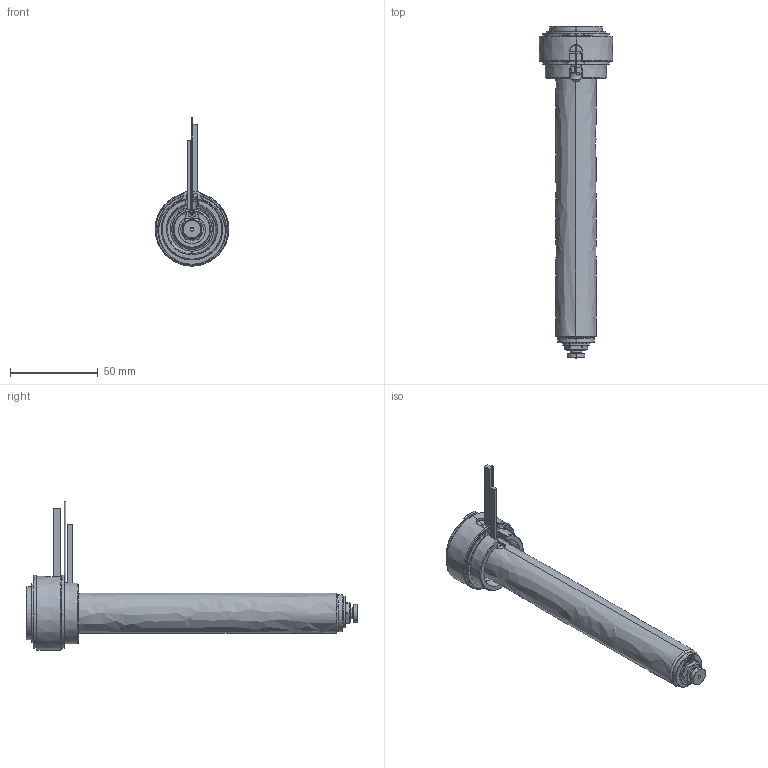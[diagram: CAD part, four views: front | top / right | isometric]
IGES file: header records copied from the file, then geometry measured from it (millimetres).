
Start section: SolidWorks IGES file using analytic representation for surfaces
Global section: file name: C:\Users\luca.EMPAD\Desktop\TEM\UGBE3504-M-A-3 [Ød-1.5 P-0 ØC-7.0].IGS; native system: SolidWorks 2012; preprocessor: SolidWorks 2012; author: luca; date: 120330.140549; units: millimetre
Bounding box: 42 x 189 x 84.4 mm (x, y, z)
Surface area: 34965.2 mm2 (no closed solid volume)
Topology: 0 solids, 0 shells, 180 faces, 3212 edges, 3212 vertices
Faces by surface type: revolution 116, bspline 64
